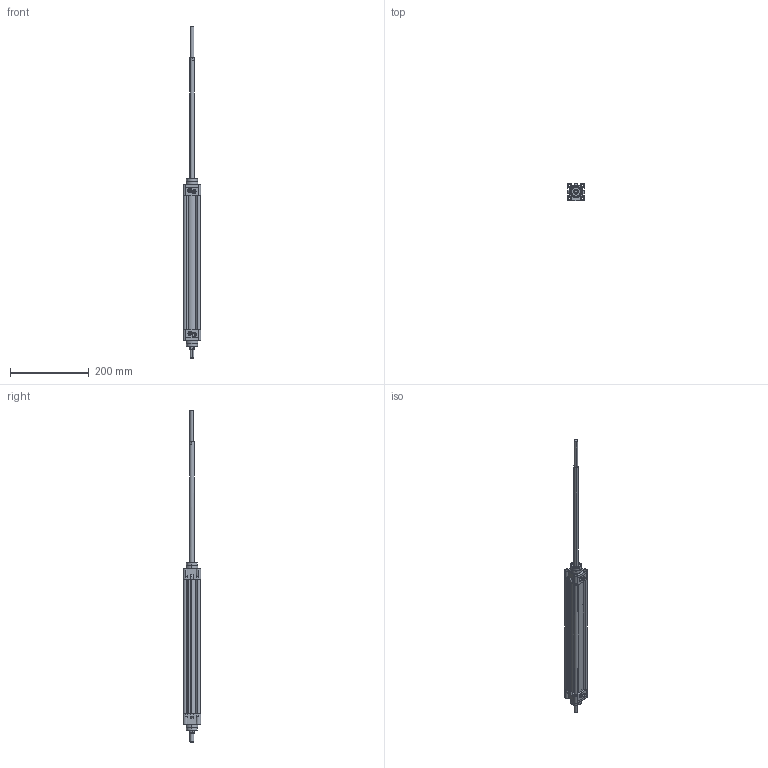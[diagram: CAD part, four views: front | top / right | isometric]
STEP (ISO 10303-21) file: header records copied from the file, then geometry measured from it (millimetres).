
FILE_DESCRIPTION (( 'STEP AP203' ), '1' );
FILE_NAME ('KDNT32X300CIFTMILLI-STROK AYARLI-CYLINDER.STEP', '2015-03-24T07:58:44', ( 'user' ), ( '' ), 'SwSTEP 2.0', 'SolidWorks 2013', '' );
FILE_SCHEMA (( 'CONFIG_CONTROL_DESIGN' ));
Length unit declared in the file: millimetre
Products named in the file (6): 烰 KAPAK; ORTA PÝSTON ÇÝFT MÝLLÝ; KDNT Piston Mili 32X300; KDNT 32x300 BORU; SAPLAMALI M尳 STROK AYARLI 32x300; KDNT32X300CIFTMILLI-STROK AYARLI-CYLINDER
Assembly tree (6 placements, depth 2):
  KDNT32X300CIFTMILLI-STROK AYARLI-CYLINDER
    烰 KAPAK  x2
    ORTA PÝSTON ÇÝFT MÝLLÝ
    KDNT Piston Mili 32X300
    KDNT 32x300 BORU
    SAPLAMALI M尳 STROK AYARLI 32x300
Bounding box: 44.45 x 44.65 x 843 mm (x, y, z)
Volume: 372273.2 mm3; surface area: 204678.1 mm2
Topology: 8 solids, 10 shells, 777 faces, 1934 edges, 1212 vertices
Faces by surface type: cylinder 285, plane 206, cone 150, bspline 136
Entity records: 20811 total; most frequent: CARTESIAN_POINT 8851, ORIENTED_EDGE 2434, DIRECTION 2276, EDGE_CURVE 1217, AXIS2_PLACEMENT_3D 883, VERTEX_POINT 772, EDGE_LOOP 561, LINE 510
